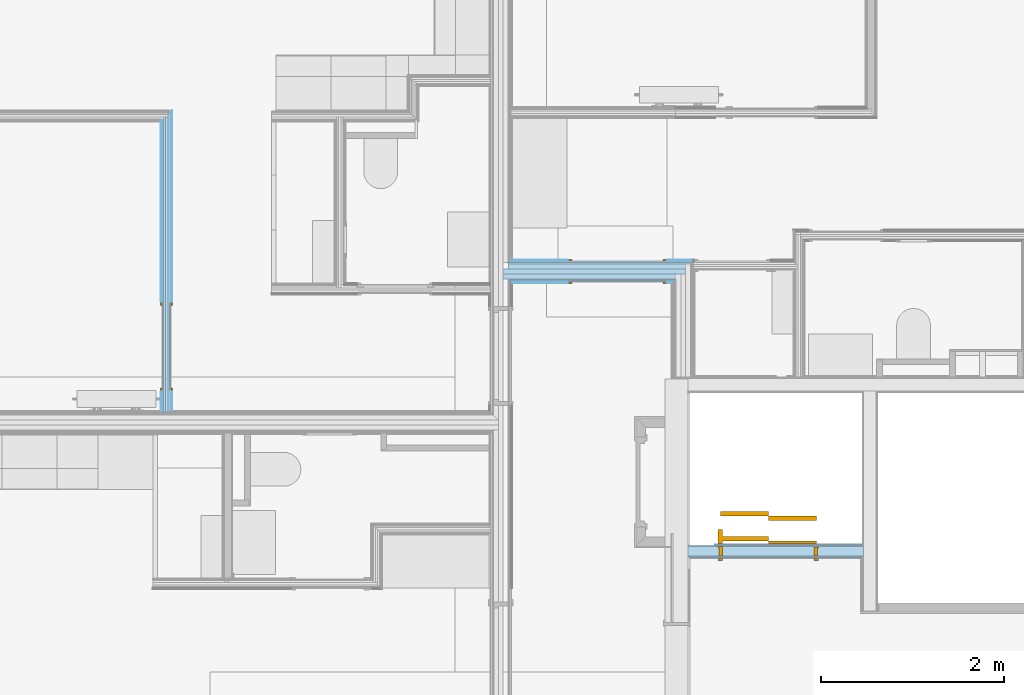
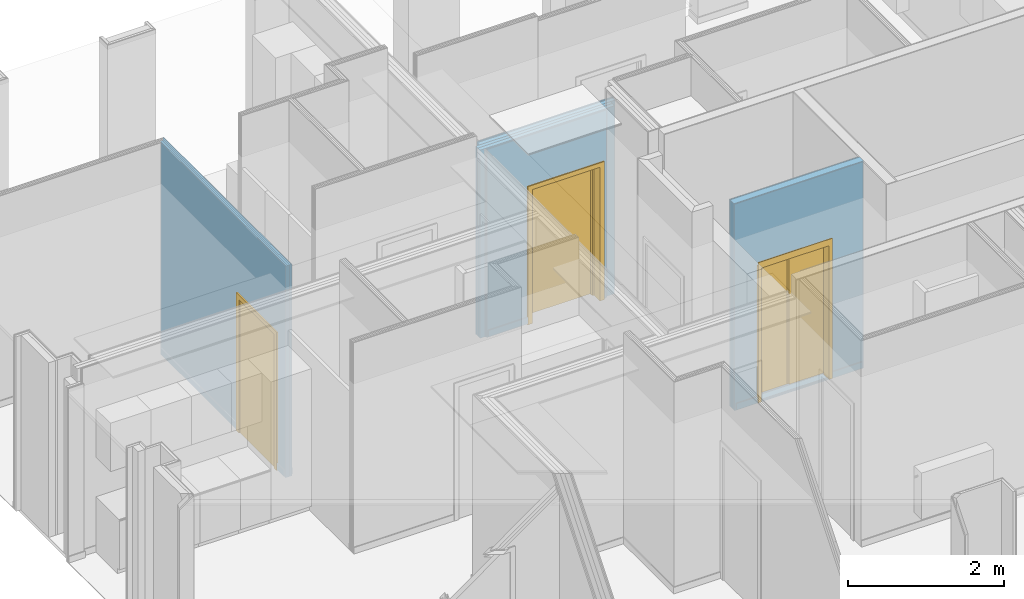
# One storey, part 51 of 65: 3 doors, 4 openings, 3 elements without a shape of their own, plus 21 elements that do not belong to this part.
"""IFC2X3 building model written with IfcOpenShell, lengths in metres."""

import ifcopenshell
import ifcopenshell.guid

model = None  # the IFC model being written
_history = None  # IfcOwnerHistory: only IFC2X3 demands one
_inside = {}  # id of a spatial element -> (the spatial element, [elements in it])
_under = {}  # id of a project, library or spatial element -> (it, [spatial elements below it])
_declared = {}  # id of a project -> (the project, [libraries it declares])
_typed = {}  # id of a type object -> (the type object, [elements of that type])
_made_of = {}  # id of a material, layer set ... -> (it, [elements and type objects made of it])


def new_model(schema):
    """Start an empty IFC model of exactly this schema.

    Asked for "IFC4X3", IfcOpenShell would pick the latest addendum, in which some entities
    have other attributes; the version numbers below select the first issue.
    IFC2X3 requires an IfcOwnerHistory on every rooted entity: one is made here for all.
    """
    global model, _history
    if schema == "IFC4X3":
        model = ifcopenshell.file(schema_version=(4, 3, 0, 0))
    else:
        model = ifcopenshell.file(schema=schema)
    _inside.clear()
    _under.clear()
    _declared.clear()
    _typed.clear()
    _made_of.clear()
    _history = None
    if model.schema == "IFC2X3":
        org = make("IfcOrganization", Name="unknown")
        user = make(
            "IfcPersonAndOrganization",
            ThePerson=make("IfcPerson", FamilyName="unknown"),
            TheOrganization=org,
        )
        app = make(
            "IfcApplication",
            ApplicationDeveloper=org,
            Version="unknown",
            ApplicationFullName="unknown",
            ApplicationIdentifier="unknown",
        )
        _history = make(
            "IfcOwnerHistory",
            OwningUser=user,
            OwningApplication=app,
            ChangeAction="ADDED",
            CreationDate=0,
        )
    return model


def make(cls, **values):
    """One entity of the class cls with the attributes given. An attribute that is None is left unset."""
    return model.create_entity(
        cls, **{name: value for name, value in values.items() if value is not None}
    )


def entity(cls, *values):
    """Any entity or typed value of the class cls, its attributes in the order of the schema. None: left unset."""
    e = model.create_entity(cls)
    for i, value in enumerate(values):
        if value is not None:
            e[i] = value
    return e


def rooted(cls, **values):
    """An entity with a GlobalId (a new one), such as an element, a storey or a relation."""
    return make(cls, GlobalId=ifcopenshell.guid.new(), OwnerHistory=_history, **values)


def si_unit(unit_type, name, prefix=None):
    """IfcSIUnit, for example si_unit("LENGTHUNIT", "METRE", prefix="MILLI")."""
    return make("IfcSIUnit", UnitType=unit_type, Prefix=prefix, Name=name)


def converted_unit(unit_type, name, factor, base, dimensions=None, offset=None):
    """IfcConversionBasedUnit, such as the inch: factor (a typed value) times the base unit."""
    return make(
        "IfcConversionBasedUnit"
        if offset is None
        else "IfcConversionBasedUnitWithOffset",
        ConversionOffset=offset,
        Dimensions=None
        if dimensions is None
        else entity("IfcDimensionalExponents", *dimensions),
        UnitType=unit_type,
        Name=name,
        ConversionFactor=make(
            "IfcMeasureWithUnit", ValueComponent=factor, UnitComponent=base
        ),
    )


def derived_unit(unit_type, elements):
    """IfcDerivedUnit: a product of units, each with its exponent."""
    return make(
        "IfcDerivedUnit",
        Elements=[
            make("IfcDerivedUnitElement", Unit=unit, Exponent=power)
            for unit, power in elements
        ],
        UnitType=unit_type,
    )


def money_unit(currency):
    """IfcMonetaryUnit."""
    return make("IfcMonetaryUnit", Currency=currency)


def assignment(units):
    """IfcUnitAssignment: the units of a project."""
    return None if units is None else make("IfcUnitAssignment", Units=units)


def point(xyz):
    """IfcCartesianPoint."""
    return None if xyz is None else make("IfcCartesianPoint", Coordinates=xyz)


def direction(xyz):
    """IfcDirection."""
    return None if xyz is None else make("IfcDirection", DirectionRatios=xyz)


def frame(location, z_axis=None, x_axis=None):
    """IfcAxis2Placement3D, a coordinate frame: its origin and axes. An axis left out is left unset."""
    return make(
        "IfcAxis2Placement3D",
        Location=point(location),
        Axis=direction(z_axis),
        RefDirection=direction(x_axis),
    )


def frame_2d(location, x_axis=None):
    """IfcAxis2Placement2D, a coordinate frame in the plane: its origin and x axis."""
    return make(
        "IfcAxis2Placement2D", Location=point(location), RefDirection=direction(x_axis)
    )


def origin_with_axes():
    """The frame at (0, 0, 0) with the z axis (0, 0, 1) and the x axis (1, 0, 0) written out."""
    return frame((0.0, 0.0, 0.0), z_axis=(0.0, 0.0, 1.0), x_axis=(1.0, 0.0, 0.0))


def place(relative_to, where):
    """IfcLocalPlacement: puts the frame where relative to a parent placement (None: the world)."""
    return make(
        "IfcLocalPlacement", PlacementRelTo=relative_to, RelativePlacement=where
    )


def context(
    kind, dimensions, precision=None, world=None, true_north=None, identifier=None
):
    """IfcGeometricRepresentationContext, for example the 3D "Model" context."""
    return make(
        "IfcGeometricRepresentationContext",
        ContextIdentifier=identifier,
        ContextType=kind,
        CoordinateSpaceDimension=dimensions,
        Precision=precision,
        WorldCoordinateSystem=world,
        TrueNorth=true_north,
    )


def subcontext(parent, identifier, kind, view, scale=None):
    """IfcGeometricRepresentationSubContext, for example "Body" below "Model"."""
    return make(
        "IfcGeometricRepresentationSubContext",
        ContextIdentifier=identifier,
        ContextType=kind,
        ParentContext=parent,
        TargetScale=scale,
        TargetView=view,
    )


def project(units=None, contexts=None):
    """IfcProject with its units and contexts."""
    return rooted(
        "IfcProject",
        Name="project",
        RepresentationContexts=contexts,
        UnitsInContext=assignment(units),
    )


def spatial(cls, under=None, at=None, **own):
    """A site, building, storey or space (cls), placed at a placement, below another one or the project."""
    s = rooted(cls, ObjectPlacement=at, **own)
    if under is not None:
        _under.setdefault(under.id(), (under, []))[1].append(s)
    return s


def polyline(points):
    """IfcPolyline through the points."""
    return make("IfcPolyline", Points=[point(p) for p in points])


def profile(cls, at=None, kind="AREA", **sizes):
    """A parametric profile (cls). Its sizes go by their IFC names, for example OverallWidth=200.0."""
    return make(cls, ProfileType=kind, Position=at, **sizes)


def rectangle(**sizes):
    """IfcRectangleProfileDef."""
    return profile("IfcRectangleProfileDef", **sizes)


def outline(outer, holes=None, kind="AREA"):
    """IfcArbitraryClosedProfileDef: a profile drawn as a closed curve; with holes, ...WithVoids."""
    if holes is None:
        return make("IfcArbitraryClosedProfileDef", ProfileType=kind, OuterCurve=outer)
    return make(
        "IfcArbitraryProfileDefWithVoids",
        ProfileType=kind,
        OuterCurve=outer,
        InnerCurves=holes,
    )


def extrude(swept, where, along, depth):
    """IfcExtrudedAreaSolid: the profile swept, set in the frame where, extruded along a direction by depth."""
    return make(
        "IfcExtrudedAreaSolid",
        SweptArea=swept,
        Position=where,
        ExtrudedDirection=direction(along),
        Depth=depth,
    )


def faces_of(points, faces, orient=None, outer=None):
    """IfcFace entities. A face is a list of loops; a loop is a list of indices into points, from 0.

    orient and outer hold one flag for each loop. By default every Orientation is true, the
    first loop of a face is its IfcFaceOuterBound and the others are IfcFaceBound.
    """
    made = []
    for i, loops in enumerate(faces):
        bounds = []
        for j, loop in enumerate(loops):
            is_outer = j == 0 if outer is None else outer[i][j]
            bounds.append(
                make(
                    "IfcFaceOuterBound" if is_outer else "IfcFaceBound",
                    Bound=make("IfcPolyLoop", Polygon=[points[k] for k in loop]),
                    Orientation=True if orient is None else orient[i][j],
                )
            )
        made.append(make("IfcFace", Bounds=bounds))
    return made


def faceted_brep(points, faces, orient=None, outer=None, voids=None):
    """IfcFacetedBrep: a solid bounded by flat faces; with voids (closed shells), ...WithVoids."""
    shared = [point(p) for p in points]
    hull = make("IfcClosedShell", CfsFaces=faces_of(shared, faces, orient, outer))
    if voids is None:
        return make("IfcFacetedBrep", Outer=hull)
    return make(
        "IfcFacetedBrepWithVoids",
        Outer=hull,
        Voids=[
            make(cls, CfsFaces=faces_of(shared, fs, o, b)) for cls, fs, o, b in voids
        ],
    )


def shape(context_of_items, identifier, shape_type, items):
    """IfcShapeRepresentation: the items that make up one representation, for example the "Body"."""
    return make(
        "IfcShapeRepresentation",
        ContextOfItems=context_of_items,
        RepresentationIdentifier=identifier,
        RepresentationType=shape_type,
        Items=items,
    )


def material(Name=None, Category=None):
    """IfcMaterial."""
    return make("IfcMaterial", Name=Name, Category=Category)


def made_of(thing, what):
    """Note that an element or type object is made of a material, layer set ...; save() writes the relation."""
    if what is not None:
        _made_of.setdefault(what.id(), (what, []))[1].append(thing)
    return thing


def type_object(cls, material=None, **own):
    """A type object (cls), such as IfcWallType, which elements share."""
    return made_of(rooted(cls, **own), material)


def element(
    cls,
    number,
    at=None,
    inside=None,
    cuts=None,
    type_object=None,
    material=None,
    context=None,
    identifier="Body",
    shape_type=None,
    held_by="IfcProductDefinitionShape",
    body=None,
    shapes=None,
    **own,
):
    """One element of the class cls, such as IfcWall. Its Tag is "e" and its number.

    at: its placement. inside: the storey or other place that contains it. cuts: it is an
    opening in that element (IfcRelVoidsElement). A single representation is given by context,
    identifier, shape_type and body (its items); several are given by shapes. held_by: the class
    of the entity that holds the representations. save() writes the other relations.
    """
    e = rooted(cls, Tag="e%d" % number, ObjectPlacement=at, **own)
    if body is not None:
        shapes = [shape(context, identifier, shape_type, body)]
    if shapes is not None:
        e.Representation = make(held_by, Representations=shapes)
    if inside is not None:
        _inside.setdefault(inside.id(), (inside, []))[1].append(e)
    if cuts is not None:
        rooted(
            "IfcRelVoidsElement", RelatingBuildingElement=cuts, RelatedOpeningElement=e
        )
    if type_object is not None:
        _typed.setdefault(type_object.id(), (type_object, []))[1].append(e)
    return made_of(e, material)


def fill(opening, filler):
    """IfcRelFillsElement: the door or window that sits in an opening."""
    return rooted(
        "IfcRelFillsElement",
        RelatingOpeningElement=opening,
        RelatedBuildingElement=filler,
    )


def aggregate(whole, parts):
    """IfcRelAggregates: a whole, such as a stair, and the parts it consists of."""
    return rooted("IfcRelAggregates", RelatingObject=whole, RelatedObjects=parts)


def save(model, path):
    """Write the relations noted so far, then the file.

    IfcRelAggregates (storeys below a building ...), IfcRelContainedInSpatialStructure (elements
    in a storey), IfcRelDefinesByType, IfcRelAssociatesMaterial and IfcRelDeclares: one each for
    every whole, place, type object, material and project.
    """
    for whole, parts in _under.values():
        aggregate(whole, parts)
    for where, things in _inside.values():
        rooted(
            "IfcRelContainedInSpatialStructure",
            RelatedElements=things,
            RelatingStructure=where,
        )
    for kind, things in _typed.values():
        rooted("IfcRelDefinesByType", RelatedObjects=things, RelatingType=kind)
    for what, things in _made_of.values():
        rooted("IfcRelAssociatesMaterial", RelatedObjects=things, RelatingMaterial=what)
    for by, libraries in _declared.values():
        rooted("IfcRelDeclares", RelatingContext=by, RelatedDefinitions=libraries)
    model.write(path)


model = new_model("IFC2X3")

# Units and contexts
model_context = context("Model", 3, precision=1e-05, world=origin_with_axes(), true_north=direction((0.0, 1.0)))
body_context = subcontext(model_context, "Body", "Model", "MODEL_VIEW", scale=1.0)
ifc_project = project(units=[si_unit("LENGTHUNIT", "METRE"), si_unit("AREAUNIT", "SQUARE_METRE"), si_unit("VOLUMEUNIT", "CUBIC_METRE"), si_unit("ABSORBEDDOSEUNIT", "GRAY"), si_unit("AMOUNTOFSUBSTANCEUNIT", "MOLE"), si_unit("DOSEEQUIVALENTUNIT", "SIEVERT"), si_unit("ELECTRICCAPACITANCEUNIT", "FARAD"), si_unit("ELECTRICCHARGEUNIT", "COULOMB"), si_unit("ELECTRICCONDUCTANCEUNIT", "SIEMENS"), si_unit("ELECTRICCURRENTUNIT", "AMPERE"), si_unit("ELECTRICRESISTANCEUNIT", "OHM"), si_unit("ELECTRICVOLTAGEUNIT", "VOLT"), si_unit("ENERGYUNIT", "JOULE"), si_unit("FORCEUNIT", "NEWTON"), si_unit("FREQUENCYUNIT", "HERTZ"), si_unit("ILLUMINANCEUNIT", "LUX"), si_unit("INDUCTANCEUNIT", "HENRY"), si_unit("LUMINOUSFLUXUNIT", "LUMEN"), si_unit("LUMINOUSINTENSITYUNIT", "CANDELA"), si_unit("MAGNETICFLUXDENSITYUNIT", "TESLA"), si_unit("MAGNETICFLUXUNIT", "WEBER"), si_unit("MASSUNIT", "GRAM"), converted_unit("PLANEANGLEUNIT", "degree", entity("IfcReal", 0.0174532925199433), si_unit("PLANEANGLEUNIT", "RADIAN"), dimensions=[0, 0, 0, 0, 0, 0, 0]), si_unit("POWERUNIT", "WATT"), si_unit("PRESSUREUNIT", "PASCAL"), si_unit("RADIOACTIVITYUNIT", "BECQUEREL"), si_unit("SOLIDANGLEUNIT", "STERADIAN"), si_unit("THERMODYNAMICTEMPERATUREUNIT", "KELVIN"), si_unit("TIMEUNIT", "SECOND"), derived_unit("ACCELERATIONUNIT", [(si_unit("LENGTHUNIT", "METRE"), 1), (si_unit("TIMEUNIT", "SECOND"), -2)]), derived_unit("ANGULARVELOCITYUNIT", [(converted_unit("PLANEANGLEUNIT", "degree", entity("IfcReal", 0.0174532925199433), si_unit("PLANEANGLEUNIT", "RADIAN"), dimensions=[0, 0, 0, 0, 0, 0, 0]), 1), (si_unit("TIMEUNIT", "SECOND"), -1)]), derived_unit("CURVATUREUNIT", [(converted_unit("PLANEANGLEUNIT", "degree", entity("IfcReal", 0.0174532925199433), si_unit("PLANEANGLEUNIT", "RADIAN"), dimensions=[0, 0, 0, 0, 0, 0, 0]), 1), (si_unit("LENGTHUNIT", "METRE"), -1)]), derived_unit("DYNAMICVISCOSITYUNIT", [(si_unit("PRESSUREUNIT", "PASCAL"), 1), (si_unit("TIMEUNIT", "SECOND"), 1)]), derived_unit("HEATFLUXDENSITYUNIT", [(si_unit("POWERUNIT", "WATT"), 1), (si_unit("LENGTHUNIT", "METRE"), -2)]), derived_unit("HEATINGVALUEUNIT", [(si_unit("ENERGYUNIT", "JOULE"), 1), (si_unit("MASSUNIT", "GRAM"), -1)]), derived_unit("INTEGERCOUNTRATEUNIT", [(si_unit("TIMEUNIT", "SECOND"), -1)]), derived_unit("IONCONCENTRATIONUNIT", [(si_unit("MASSUNIT", "GRAM"), 1), (si_unit("VOLUMEUNIT", "CUBIC_METRE"), -1)]), derived_unit("ISOTHERMALMOISTURECAPACITYUNIT", [(si_unit("VOLUMEUNIT", "CUBIC_METRE"), 1), (si_unit("MASSUNIT", "GRAM"), -1)]), derived_unit("KINEMATICVISCOSITYUNIT", [(si_unit("AREAUNIT", "SQUARE_METRE"), 1), (si_unit("TIMEUNIT", "SECOND"), -1)]), derived_unit("LINEARFORCEUNIT", [(si_unit("FORCEUNIT", "NEWTON"), 1), (si_unit("LENGTHUNIT", "METRE"), -1)]), derived_unit("LINEARMOMENTUNIT", [(si_unit("FORCEUNIT", "NEWTON"), 1), (si_unit("LENGTHUNIT", "METRE"), -1)]), derived_unit("LINEARSTIFFNESSUNIT", [(si_unit("FORCEUNIT", "NEWTON"), 1), (si_unit("LENGTHUNIT", "METRE"), -1)]), derived_unit("LINEARVELOCITYUNIT", [(si_unit("LENGTHUNIT", "METRE"), 1), (si_unit("TIMEUNIT", "SECOND"), -1)]), derived_unit("LUMINOUSINTENSITYDISTRIBUTIONUNIT", [(si_unit("LUMINOUSINTENSITYUNIT", "CANDELA"), 1), (si_unit("LUMINOUSFLUXUNIT", "LUMEN"), -1)]), derived_unit("MASSDENSITYUNIT", [(si_unit("MASSUNIT", "GRAM"), 1), (si_unit("VOLUMEUNIT", "CUBIC_METRE"), -1)]), derived_unit("MASSFLOWRATEUNIT", [(si_unit("MASSUNIT", "GRAM"), 1), (si_unit("TIMEUNIT", "SECOND"), -1)]), derived_unit("MASSPERLENGTHUNIT", [(si_unit("MASSUNIT", "GRAM"), 1), (si_unit("LENGTHUNIT", "METRE"), -1)]), derived_unit("MODULUSOFELASTICITYUNIT", [(si_unit("FORCEUNIT", "NEWTON"), 1), (si_unit("AREAUNIT", "SQUARE_METRE"), -1)]), derived_unit("MODULUSOFLINEARSUBGRADEREACTIONUNIT", [(si_unit("FORCEUNIT", "NEWTON"), 1), (si_unit("LENGTHUNIT", "METRE"), -2)]), derived_unit("MODULUSOFROTATIONALSUBGRADEREACTIONUNIT", [(si_unit("FORCEUNIT", "NEWTON"), 1), (si_unit("LENGTHUNIT", "METRE"), 1)]), derived_unit("MODULUSOFSUBGRADEREACTIONUNIT", [(si_unit("FORCEUNIT", "NEWTON"), 1), (si_unit("VOLUMEUNIT", "CUBIC_METRE"), -1)]), derived_unit("MOISTUREDIFFUSIVITYUNIT", [(si_unit("VOLUMEUNIT", "CUBIC_METRE"), 1), (si_unit("TIMEUNIT", "SECOND"), -1)]), derived_unit("MOLECULARWEIGHTUNIT", [(si_unit("MASSUNIT", "GRAM"), 1), (si_unit("AMOUNTOFSUBSTANCEUNIT", "MOLE"), -1)]), derived_unit("PLANARFORCEUNIT", [(si_unit("FORCEUNIT", "NEWTON"), 1), (si_unit("LENGTHUNIT", "METRE"), -2)]), derived_unit("ROTATIONALFREQUENCYUNIT", [(si_unit("TIMEUNIT", "SECOND"), -1)]), derived_unit("ROTATIONALMASSUNIT", [(si_unit("MASSUNIT", "GRAM"), 1), (si_unit("LENGTHUNIT", "METRE"), 2)]), derived_unit("ROTATIONALSTIFFNESSUNIT", [(si_unit("FORCEUNIT", "NEWTON"), 1), (si_unit("LENGTHUNIT", "METRE"), 1), (converted_unit("PLANEANGLEUNIT", "degree", entity("IfcReal", 0.0174532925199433), si_unit("PLANEANGLEUNIT", "RADIAN"), dimensions=[0, 0, 0, 0, 0, 0, 0]), -1)]), derived_unit("SECTIONAREAINTEGRALUNIT", [(si_unit("LENGTHUNIT", "METRE"), 5)]), derived_unit("SECTIONMODULUSUNIT", [(si_unit("LENGTHUNIT", "METRE"), 3)]), derived_unit("SHEARMODULUSUNIT", [(si_unit("FORCEUNIT", "NEWTON"), 1), (si_unit("AREAUNIT", "SQUARE_METRE"), -1)]), derived_unit("SOUNDPOWERUNIT", [(si_unit("ENERGYUNIT", "JOULE"), 1), (si_unit("TIMEUNIT", "SECOND"), -1)]), derived_unit("SPECIFICHEATCAPACITYUNIT", [(si_unit("FORCEUNIT", "NEWTON"), 1), (si_unit("MASSUNIT", "GRAM"), -1), (si_unit("THERMODYNAMICTEMPERATUREUNIT", "KELVIN"), -1)]), derived_unit("TEMPERATUREGRADIENTUNIT", [(si_unit("THERMODYNAMICTEMPERATUREUNIT", "KELVIN"), 1), (si_unit("LENGTHUNIT", "METRE"), -1)]), derived_unit("THERMALADMITTANCEUNIT", [(si_unit("POWERUNIT", "WATT"), 1), (si_unit("AREAUNIT", "SQUARE_METRE"), -1), (si_unit("THERMODYNAMICTEMPERATUREUNIT", "KELVIN"), -1)]), derived_unit("THERMALCONDUCTANCEUNIT", [(si_unit("POWERUNIT", "WATT"), 1), (si_unit("LENGTHUNIT", "METRE"), -1), (si_unit("THERMODYNAMICTEMPERATUREUNIT", "KELVIN"), -1)]), derived_unit("THERMALEXPANSIONCOEFFICIENTUNIT", [(si_unit("THERMODYNAMICTEMPERATUREUNIT", "KELVIN"), -1)]), derived_unit("THERMALRESISTANCEUNIT", [(si_unit("AREAUNIT", "SQUARE_METRE"), 1), (si_unit("POWERUNIT", "WATT"), -1)]), derived_unit("THERMALTRANSMITTANCEUNIT", [(si_unit("POWERUNIT", "WATT"), 1), (si_unit("AREAUNIT", "SQUARE_METRE"), -1), (si_unit("THERMODYNAMICTEMPERATUREUNIT", "KELVIN"), -1)]), derived_unit("TORQUEUNIT", [(si_unit("FORCEUNIT", "NEWTON"), 1), (si_unit("LENGTHUNIT", "METRE"), 1)]), derived_unit("VAPORPERMEABILITYUNIT", [(si_unit("MASSUNIT", "GRAM"), 1), (si_unit("TIMEUNIT", "SECOND"), -1)]), derived_unit("VOLUMETRICFLOWRATEUNIT", [(si_unit("VOLUMEUNIT", "CUBIC_METRE"), 1), (si_unit("TIMEUNIT", "SECOND"), -1)]), derived_unit("WARPINGCONSTANTUNIT", [(si_unit("LENGTHUNIT", "METRE"), 6)]), derived_unit("WARPINGMOMENTUNIT", [(si_unit("FORCEUNIT", "NEWTON"), 1), (si_unit("LENGTHUNIT", "METRE"), 2)]), money_unit("GBP")], contexts=[model_context])

# Site, building, storey, space
site_placement = place(None, origin_with_axes())
site = spatial("IfcSite", under=ifc_project, at=site_placement, Name="Site", CompositionType="ELEMENT")
building_placement = place(site_placement, origin_with_axes())
building = spatial("IfcBuilding", under=site, at=building_placement, Name="Building01", CompositionType="ELEMENT")
storey_placement = place(building_placement, frame((0.0, 0.0, 8.64), z_axis=(0.0, 0.0, 1.0), x_axis=(1.0, 0.0, 0.0)))
storey = spatial("IfcBuildingStorey", under=building, at=storey_placement, Name="2F", CompositionType="ELEMENT", Elevation=8.64)
space_1_placement = place(storey_placement, frame((11.275, 11.668124, 0.017975), z_axis=(0.0, 0.0, 1.0), x_axis=(-1.0, 0.0, 0.0)))
space_1 = spatial("IfcSpace", under=storey, at=space_1_placement, Name="corridor", CompositionType="ELEMENT", InteriorOrExteriorSpace="NOTDEFINED")

# Door
ifc_material_1 = material(Name="A_BSUK_Doors")
door_style_1 = type_object("IfcDoorStyle", Name="A-Doors-SingleFlush", ConstructionType="USERDEFINED", OperationType="SINGLE_SWING_LEFT", ParameterTakesPrecedence=False, Sizeable=False)
wall_2_placement = place(storey_placement, frame((9.197, 9.949704, 0.0), z_axis=(0.0, 0.0, 1.0), x_axis=(-1.0, 0.0, 0.0)))
opening_3_placement = place(wall_2_placement, frame((0.200331, -0.153, 0.0), z_axis=(0.0, 0.0, 1.0), x_axis=(1.0, 0.0, 0.0)))
door_1_placement = place(opening_3_placement, frame((1.042, 0.015, 0.0), z_axis=(0.0, 0.0, 1.0), x_axis=(-1.0, 0.0, 0.0)))
door_1 = element("IfcDoor", 1, at=door_1_placement, inside=space_1, type_object=door_style_1, material=ifc_material_1, Name="2.23", ObjectType="A-Doors-SingleFlush", OverallHeight=2.142, OverallWidth=1.084, context=body_context, shape_type="Brep", body=[
    faceted_brep([(0.0, -0.244, 2.1), (1.0, -0.244, 2.1), (1.0, -0.244, 0.0), (1.069, -0.244, 0.0), (1.069, -0.244, 2.169), (-0.069, -0.244, 2.169), (-0.069, -0.244, 0.0), (0.0, -0.244, 0.0), (1.069, -0.225, 2.169), (1.069, -0.225, 0.0), (-0.069, -0.225, 0.0), (-0.069, -0.225, 2.169), (-0.042, -0.225, 0.0), (-0.042, 0.0, 0.0), (-0.069, 0.0, 0.0), (-0.069, 0.019, 0.0), (0.0, 0.019, 0.0), (0.0, 0.019, 2.1), (1.0, 0.019, 2.1), (-0.069, 0.019, 2.169), (1.069, 0.019, 2.169), (1.069, 0.019, 0.0), (1.0, 0.019, 0.0), (-0.069, 0.0, 2.169), (-0.042, 0.0, 2.142), (-0.042, -0.225, 2.142), (1.042, 0.0, 2.142), (1.042, -0.225, 2.142), (1.042, -0.225, 0.0), (1.042, 0.0, 0.0), (1.069, 0.0, 0.0), (1.069, 0.0, 2.169)], [[[0, 1, 2, 3, 4, 5, 6, 7]], [[8, 4, 3, 9]], [[10, 6, 5, 11]], [[11, 5, 4, 8]], [[7, 6, 10, 12, 13, 14, 15, 16]], [[7, 16, 17, 0]], [[0, 17, 18, 1]], [[17, 16, 15, 19, 20, 21, 22, 18]], [[1, 18, 22, 2]], [[14, 23, 19, 15]], [[24, 13, 12, 25]], [[26, 24, 25, 27]], [[11, 8, 9, 28, 27, 25, 12, 10]], [[27, 28, 29, 26]], [[26, 29, 30, 31, 23, 14, 13, 24]], [[22, 21, 30, 29, 28, 9, 3, 2]], [[30, 21, 20, 31]], [[31, 20, 19, 23]]]),
    faceted_brep([(1.0, -0.09, 0.0), (1.0, -0.04, 0.0), (1.0, -0.04, 2.1), (1.0, -0.09, 2.1), (0.025, -0.09, 2.075), (0.975, -0.09, 2.075), (0.975, -0.09, 0.0), (0.0, -0.09, 2.1), (0.0, -0.09, 0.0), (0.025, -0.09, 0.0), (0.0, -0.04, 0.0), (0.025, -0.04, 0.0), (0.0, -0.04, 2.1), (0.025, -0.04, 2.075), (0.975, -0.04, 0.0), (0.975, -0.04, 2.075)], [[[0, 1, 2, 3]], [[4, 5, 6, 0, 3, 7, 8, 9]], [[9, 8, 10, 11]], [[3, 2, 12, 7]], [[7, 12, 10, 8]], [[13, 11, 10, 12, 2, 1, 14, 15]], [[5, 15, 14, 6]], [[14, 1, 0, 6]], [[9, 11, 13, 4]], [[4, 13, 15, 5]]]),
    faceted_brep([(0.0, -0.04, 2.1), (0.0, 0.0, 2.1), (0.0, 0.0, 0.0), (0.0, -0.04, 0.0), (1.0, -0.04, 0.0), (1.0, 0.0, 0.0), (1.0, 0.0, 2.1), (1.0, -0.04, 2.1)], [[[0, 1, 2, 3]], [[4, 5, 6, 7]], [[3, 2, 5, 4]], [[3, 4, 7, 0]], [[7, 6, 1, 0]], [[1, 6, 5, 2]]]),
])

# Space
space_2_placement = place(storey_placement, frame((7.064669, 14.582, 0.017975), z_axis=(0.0, 0.0, 1.0), x_axis=(-1.0, 0.0, 0.0)))
space_2 = spatial("IfcSpace", under=storey, at=space_2_placement, Name="14", CompositionType="ELEMENT", InteriorOrExteriorSpace="NOTDEFINED")

# Door
door_style_2 = type_object("IfcDoorStyle", Name="A-Doors-SingleFlush", ConstructionType="USERDEFINED", OperationType="SINGLE_SWING_LEFT", ParameterTakesPrecedence=False, Sizeable=False)
wall_3_placement = place(storey_placement, frame((3.534669, 8.43567, 0.0), z_axis=(0.0, 0.0, 1.0), x_axis=(0.0, 1.0, 0.0)))
opening_4_placement = place(wall_3_placement, frame((0.223034, -0.05, 0.0), z_axis=(0.0, 0.0, 1.0), x_axis=(1.0, 0.0, 0.0)))
door_2_placement = place(opening_4_placement, frame((0.042, 0.11, 0.0), z_axis=(0.0, 0.0, 1.0), x_axis=(1.0, 0.0, 0.0)))
door_2 = element("IfcDoor", 2, at=door_2_placement, inside=space_2, type_object=door_style_2, material=ifc_material_1, Name="2.21", ObjectType="A-Doors-SingleFlush", OverallHeight=2.142, OverallWidth=0.984, context=body_context, shape_type="Brep", body=[
    faceted_brep([(0.0, -0.114, 2.1), (0.9, -0.114, 2.1), (0.9, -0.114, 0.0), (0.969, -0.114, 0.0), (0.969, -0.114, 2.169), (-0.069, -0.114, 2.169), (-0.069, -0.114, 0.0), (0.0, -0.114, 0.0), (0.969, -0.095, 2.169), (0.969, -0.095, 0.0), (-0.069, -0.095, 0.0), (-0.069, -0.095, 2.169), (-0.042, -0.095, 0.0), (-0.042, 0.0, 0.0), (-0.069, 0.0, 0.0), (-0.069, 0.019, 0.0), (0.0, 0.019, 0.0), (0.0, 0.019, 2.1), (0.9, 0.019, 2.1), (-0.069, 0.019, 2.169), (0.969, 0.019, 2.169), (0.969, 0.019, 0.0), (0.9, 0.019, 0.0), (-0.069, 0.0, 2.169), (-0.042, 0.0, 2.142), (-0.042, -0.095, 2.142), (0.942, 0.0, 2.142), (0.942, -0.095, 2.142), (0.942, -0.095, 0.0), (0.942, 0.0, 0.0), (0.969, 0.0, 0.0), (0.969, 0.0, 2.169)], [[[0, 1, 2, 3, 4, 5, 6, 7]], [[8, 4, 3, 9]], [[10, 6, 5, 11]], [[11, 5, 4, 8]], [[7, 6, 10, 12, 13, 14, 15, 16]], [[7, 16, 17, 0]], [[0, 17, 18, 1]], [[17, 16, 15, 19, 20, 21, 22, 18]], [[1, 18, 22, 2]], [[14, 23, 19, 15]], [[24, 13, 12, 25]], [[26, 24, 25, 27]], [[11, 8, 9, 28, 27, 25, 12, 10]], [[27, 28, 29, 26]], [[26, 29, 30, 31, 23, 14, 13, 24]], [[22, 21, 30, 29, 28, 9, 3, 2]], [[30, 21, 20, 31]], [[31, 20, 19, 23]]]),
    faceted_brep([(0.9, -0.09, 0.0), (0.9, -0.04, 0.0), (0.9, -0.04, 2.1), (0.9, -0.09, 2.1), (0.025, -0.09, 2.075), (0.875, -0.09, 2.075), (0.875, -0.09, 0.0), (0.0, -0.09, 2.1), (0.0, -0.09, 0.0), (0.025, -0.09, 0.0), (0.0, -0.04, 0.0), (0.025, -0.04, 0.0), (0.0, -0.04, 2.1), (0.025, -0.04, 2.075), (0.875, -0.04, 0.0), (0.875, -0.04, 2.075)], [[[0, 1, 2, 3]], [[4, 5, 6, 0, 3, 7, 8, 9]], [[9, 8, 10, 11]], [[3, 2, 12, 7]], [[7, 12, 10, 8]], [[13, 11, 10, 12, 2, 1, 14, 15]], [[5, 15, 14, 6]], [[14, 1, 0, 6]], [[9, 11, 13, 4]], [[4, 13, 15, 5]]]),
    faceted_brep([(0.0, -0.04, 2.1), (0.0, 0.0, 2.1), (0.0, 0.0, 0.0), (0.0, -0.04, 0.0), (0.9, -0.04, 0.0), (0.9, 0.0, 0.0), (0.9, 0.0, 2.1), (0.9, -0.04, 2.1)], [[[0, 1, 2, 3]], [[4, 5, 6, 7]], [[3, 2, 5, 4]], [[3, 4, 7, 0]], [[7, 6, 1, 0]], [[1, 6, 5, 2]]]),
])

# Space
space_3_placement = place(storey_placement, frame((9.548928, 7.163933, 0.017932), z_axis=(0.0, 0.0, 1.0), x_axis=(1.0, 0.0, 0.0)))
space_3 = spatial("IfcSpace", under=storey, at=space_3_placement, Name="firef. LIFT", CompositionType="ELEMENT", InteriorOrExteriorSpace="NOTDEFINED")

# Door
door_style_3 = type_object("IfcDoorStyle", Name="A-ElevatorDoor-2Speed", ConstructionType="USERDEFINED", OperationType="USERDEFINED", ParameterTakesPrecedence=False, Sizeable=False)
wall_1_placement = place(storey_placement, frame((11.145, 6.965, 0.0), z_axis=(0.0, 0.0, 1.0), x_axis=(-1.0, 0.0, 0.0)))
opening_1_placement = place(wall_1_placement, frame((0.5, -0.03, 0.03), z_axis=(0.0, 0.0, 1.0), x_axis=(1.0, 0.0, 0.0)))
door_3_placement = place(opening_1_placement, frame((1.04, 0.17, 0.0), z_axis=(0.0, 0.0, 1.0), x_axis=(-1.0, 0.0, 0.0)))
door_3 = element("IfcDoor", 3, at=door_3_placement, inside=space_3, type_object=door_style_3, material=ifc_material_1, Name="A-ElevatorDoor-2Speed", ObjectType="A-ElevatorDoor-2Speed", OverallHeight=2.14, OverallWidth=1.08999999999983, context=body_context, shape_type="Brep", body=[
    faceted_brep([(1.05, 0.0, 0.0), (1.05, 0.0, 2.1), (1.05, -0.012, 2.1), (1.05, -0.012, 0.0), (1.0, -0.012, 0.0), (1.0, -0.012, 2.1), (1.0, 0.137, 2.1), (1.0, 0.137, 0.0), (1.05, 0.137, 2.1), (1.05, 0.137, 0.0), (1.05, 0.125, 2.1), (1.05, 0.125, 0.0), (1.04, 0.125, 2.1), (1.04, 0.125, 0.0), (1.04, 0.0, 2.1), (1.04, 0.0, 0.0)], [[[0, 1, 2, 3]], [[4, 5, 6, 7]], [[7, 6, 8, 9]], [[9, 8, 10, 11]], [[11, 10, 12, 13]], [[13, 12, 14, 15]], [[15, 14, 1, 0]], [[3, 4, 7, 9, 11, 13, 15, 0]], [[3, 2, 5, 4]], [[1, 14, 12, 10, 8, 6, 5, 2]]]),
    faceted_brep([(1.05, 0.0, 2.2), (-0.05, 0.0, 2.2), (-0.05, -0.012, 2.2), (1.05, -0.012, 2.2), (1.05, -0.012, 2.1), (-0.05, -0.012, 2.1), (-0.05, 0.137, 2.1), (1.05, 0.137, 2.1), (-0.05, 0.137, 2.2), (1.05, 0.137, 2.2), (-0.05, 0.125, 2.2), (1.05, 0.125, 2.2), (-0.05, 0.125, 2.14), (1.05, 0.125, 2.14), (-0.05, 0.0, 2.14), (1.05, 0.0, 2.14)], [[[0, 1, 2, 3]], [[4, 5, 6, 7]], [[7, 6, 8, 9]], [[9, 8, 10, 11]], [[11, 10, 12, 13]], [[13, 12, 14, 15]], [[15, 14, 1, 0]], [[3, 4, 7, 9, 11, 13, 15, 0]], [[3, 2, 5, 4]], [[1, 14, 12, 10, 8, 6, 5, 2]]]),
    faceted_brep([(-0.05, 0.0, 2.1), (-0.05, 0.0, 0.0), (-0.05, -0.012, 0.0), (-0.05, -0.012, 2.1), (0.0, -0.012, 2.1), (0.0, -0.012, 0.0), (0.0, 0.137, 0.0), (0.0, 0.137, 2.1), (-0.05, 0.137, 0.0), (-0.05, 0.137, 2.1), (-0.05, 0.125, 0.0), (-0.05, 0.125, 2.1), (-0.04, 0.125, 0.0), (-0.04, 0.125, 2.1), (-0.04, 0.0, 0.0), (-0.04, 0.0, 2.1)], [[[0, 1, 2, 3]], [[4, 5, 6, 7]], [[7, 6, 8, 9]], [[9, 8, 10, 11]], [[11, 10, 12, 13]], [[13, 12, 14, 15]], [[15, 14, 1, 0]], [[3, 4, 7, 9, 11, 13, 15, 0]], [[3, 2, 5, 4]], [[1, 14, 12, 10, 8, 6, 5, 2]]]),
    faceted_brep([(-0.025, 0.25, 2.125), (-0.025, 0.2, 2.125), (0.5, 0.2, 2.125), (0.5, 0.25, 2.125), (0.5, 0.25, -0.025), (0.5, 0.2, -0.025), (-0.025, 0.2, -0.025), (-0.025, 0.25, -0.025)], [[[0, 1, 2, 3]], [[4, 5, 6, 7]], [[7, 6, 1, 0]], [[3, 4, 7, 0]], [[3, 2, 5, 4]], [[1, 6, 5, 2]]]),
    faceted_brep([(-0.025, 0.5254, 2.125), (-0.025, 0.4754, 2.125), (0.5, 0.4754, 2.125), (0.5, 0.5254, 2.125), (0.5, 0.5254, -0.0594), (0.5, 0.4754, -0.0594), (-0.025, 0.4754, -0.0594), (-0.025, 0.5254, -0.0594)], [[[0, 1, 2, 3]], [[4, 5, 6, 7]], [[7, 6, 1, 0]], [[3, 4, 7, 0]], [[3, 2, 5, 4]], [[1, 6, 5, 2]]]),
    faceted_brep([(1.025, 0.4254, 2.125), (1.025, 0.4754, 2.125), (0.5, 0.4754, 2.125), (0.5, 0.4254, 2.125), (0.5, 0.4254, -0.025), (0.5, 0.4754, -0.025), (1.025, 0.4754, -0.025), (1.025, 0.4254, -0.025)], [[[0, 1, 2, 3]], [[4, 5, 6, 7]], [[7, 6, 1, 0]], [[3, 4, 7, 0]], [[3, 2, 5, 4]], [[1, 6, 5, 2]]]),
    faceted_brep([(1.025, 0.15, 2.125), (1.025, 0.2, 2.125), (0.5, 0.2, 2.125), (0.5, 0.15, 2.125), (0.5, 0.15, -0.025), (0.5, 0.2, -0.025), (1.025, 0.2, -0.025), (1.025, 0.15, -0.025)], [[[0, 1, 2, 3]], [[4, 5, 6, 7]], [[7, 6, 1, 0]], [[3, 4, 7, 0]], [[3, 2, 5, 4]], [[1, 6, 5, 2]]]),
    faceted_brep([(0.0, 0.137, 2.125), (0.0, 0.137, 0.0), (0.0, 0.3246, 0.0), (0.0, 0.3246, 2.125), (-0.05, 0.3246, 2.125), (-0.05, 0.3246, 0.0), (-0.05, 0.137, 0.0), (-0.05, 0.137, 2.125)], [[[0, 1, 2, 3]], [[4, 5, 6, 7]], [[7, 6, 1, 0]], [[3, 4, 7, 0]], [[3, 2, 5, 4]], [[1, 6, 5, 2]]]),
])

# Wall, opening
wall_type_1 = type_object("IfcWallType", Name="SHE_A-Walls_Type04a_BlockworkWall_130mm", PredefinedType="NOTDEFINED")
wall_1 = element("IfcWall", 4, at=wall_1_placement, inside=storey, type_object=wall_type_1, Name="4A", ObjectType="SHE_A-Walls_Type04a_BlockworkWall_130mm")
opening_1 = element("IfcOpeningElement", 5, at=opening_1_placement, cuts=wall_1, Name="Opening", ObjectType="Opening", context=body_context, shape_type="SweptSolid", body=[
    extrude(rectangle(XDim=2.14, YDim=1.09, at=frame_2d((-0.545, 1.07), x_axis=(0.0, -1.0))), frame((0.0, 0.0, 0.0), z_axis=(0.0, 1.0, 0.0), x_axis=(-1.0, 0.0, 0.0)), (0.0, 0.0, 1.0), 0.16),
])

fill(opening_1, door_3)

# Building element part
ifc_material_2 = material(Name="A_BSUK_Walls_Timber")
placement_1 = place(wall_1_placement, origin_with_axes())
building_element_part_1 = element("IfcBuildingElementPart", 6, at=placement_1, material=ifc_material_2, Name="1", context=body_context, shape_type="SweptSolid", body=[
    extrude(outline(polyline([(0.0, -0.015), (0.015, -0.03), (1.633302, -0.03), (1.633302, -0.015), (0.0, -0.015)])), frame((0.0, 0.0, 0.015), z_axis=(0.0, 0.0, 1.0), x_axis=(1.0, 0.0, 0.0)), (0.0, 0.0, 1.0), 0.1),
])

ifc_material_3 = material(Name="A_BSUK_WallInternal_Finishes_Plasterboard")
building_element_part_2 = element("IfcBuildingElementPart", 7, at=placement_1, material=ifc_material_3, Name="2", context=body_context, shape_type="SweptSolid", body=[
    extrude(outline(polyline([(1.92, 0.0), (0.0, 0.0), (0.015, -0.015), (1.92, -0.015), (1.92, 0.0)])), origin_with_axes(), (0.0, 0.0, 1.0), 3.24),
])

ifc_material_4 = material(Name="A_BSUK_WallsInternal_Block")
building_element_part_3 = element("IfcBuildingElementPart", 8, at=placement_1, material=ifc_material_4, Name="3", context=body_context, shape_type="SweptSolid", body=[
    extrude(rectangle(XDim=1.92, YDim=0.1, at=frame_2d((0.96, 0.05), x_axis=(-1.0, 0.0))), origin_with_axes(), (0.0, 0.0, 1.0), 3.24),
])

ifc_material_5 = material(Name="A_BSUK_WallInternal_Finishes_Plaster")
building_element_part_4 = element("IfcBuildingElementPart", 9, at=placement_1, material=ifc_material_5, Name="4", context=body_context, shape_type="SweptSolid", body=[
    extrude(outline(polyline([(1.92, 0.115), (0.015, 0.115), (0.0, 0.1), (1.92, 0.1), (1.92, 0.115)])), origin_with_axes(), (0.0, 0.0, 1.0), 3.24),
])

building_element_part_5 = element("IfcBuildingElementPart", 10, at=placement_1, material=ifc_material_2, Name="5", context=body_context, shape_type="SweptSolid", body=[
    extrude(outline(polyline([(1.9, 0.13), (0.03, 0.13), (0.015, 0.115), (1.9, 0.115), (1.9, 0.13)])), frame((0.0, 0.0, 0.015), z_axis=(0.0, 0.0, 1.0), x_axis=(1.0, 0.0, 0.0)), (0.0, 0.0, 1.0), 0.1),
])

aggregate(wall_1, [building_element_part_1, building_element_part_2, building_element_part_3, building_element_part_4, building_element_part_5])

# Wall, openings
wall_type_2 = type_object("IfcWallType", Name="SHE_A-Walls_Type01c_Partywall_225mm_twin_tall", PredefinedType="NOTDEFINED")
wall_2 = element("IfcWall", 11, at=wall_2_placement, inside=storey, type_object=wall_type_2, Name="1C", ObjectType="SHE_A-Walls_Type01c_Partywall_225mm_twin_tall")
opening_2_placement = place(wall_2_placement, frame((-0.931871, -0.153, 0.0), z_axis=(0.0, 0.0, 1.0), x_axis=(1.0, 0.0, 0.0)))
element("IfcOpeningElement", 12, at=opening_2_placement, cuts=wall_2, Name="Opening", ObjectType="Recess", context=body_context, shape_type="SweptSolid", body=[
    extrude(rectangle(XDim=2.142, YDim=0.834, at=frame_2d((-0.417, 1.071), x_axis=(0.0, -1.0))), frame((0.0, 0.0, 0.0), z_axis=(0.0, 1.0, 0.0), x_axis=(-1.0, 0.0, 0.0)), (0.0, 0.0, 1.0), 0.015),
])
opening_3 = element("IfcOpeningElement", 13, at=opening_3_placement, cuts=wall_2, Name="Opening", ObjectType="Opening", context=body_context, shape_type="SweptSolid", body=[
    extrude(rectangle(XDim=1.084, YDim=2.142, at=frame_2d((-0.542, 1.071), x_axis=(-1.0, 0.0))), frame((0.0, 0.0, 0.0), z_axis=(0.0, 1.0, 0.0), x_axis=(-1.0, 0.0, 0.0)), (0.0, 0.0, 1.0), 0.255),
])

fill(opening_3, door_1)

# Building element part
placement_2 = place(wall_2_placement, origin_with_axes())
building_element_part_6 = element("IfcBuildingElementPart", 14, at=placement_2, material=ifc_material_2, Name="1", context=body_context, shape_type="SweptSolid", body=[
    extrude(outline(polyline([(1.907331, -0.138), (-0.088, -0.138), (-0.103, -0.153), (1.907331, -0.153), (1.907331, -0.138)])), frame((0.0, 0.0, 0.015), z_axis=(0.0, 0.0, 1.0), x_axis=(1.0, 0.0, 0.0)), (0.0, 0.0, 1.0), 0.1),
])

building_element_part_7 = element("IfcBuildingElementPart", 15, at=placement_2, material=ifc_material_3, Name="2", context=body_context, shape_type="SweptSolid", body=[
    extrude(rectangle(XDim=2.010331, YDim=0.015, at=frame_2d((0.917166, -0.1305), x_axis=(-1.0, 0.0))), origin_with_axes(), (0.0, 0.0, 1.0), 2.95),
])

building_element_part_8 = element("IfcBuildingElementPart", 16, at=placement_2, material=ifc_material_3, Name="3", context=body_context, shape_type="SweptSolid", body=[
    extrude(rectangle(XDim=2.010331, YDim=0.015, at=frame_2d((0.932166, -0.1155), x_axis=(-1.0, 0.0))), origin_with_axes(), (0.0, 0.0, 1.0), 2.95),
])

ifc_material_6 = material(Name="Air Cavity")
building_element_part_9 = element("IfcBuildingElementPart", 17, at=placement_2, material=ifc_material_6, Name="4", context=body_context, shape_type="SweptSolid", body=[
    extrude(rectangle(XDim=2.010331, YDim=0.058, at=frame_2d((0.932166, -0.079), x_axis=(-1.0, 0.0))), origin_with_axes(), (0.0, 0.0, 1.0), 2.95),
])

ifc_material_7 = material(Name="A_BSUK_Insulation")
building_element_part_10 = element("IfcBuildingElementPart", 18, at=placement_2, material=ifc_material_7, Name="5", context=body_context, shape_type="SweptSolid", body=[
    extrude(rectangle(XDim=1.995331, YDim=0.05, at=frame_2d((0.997666, -0.025), x_axis=(-1.0, 0.0))), origin_with_axes(), (0.0, 0.0, 1.0), 2.95),
])

building_element_part_11 = element("IfcBuildingElementPart", 19, at=placement_2, material=ifc_material_6, Name="6", context=body_context, shape_type="SweptSolid", body=[
    extrude(rectangle(XDim=1.995331, YDim=0.057, at=frame_2d((0.997666, 0.0285), x_axis=(-1.0, 0.0))), origin_with_axes(), (0.0, 0.0, 1.0), 2.95),
])

building_element_part_12 = element("IfcBuildingElementPart", 20, at=placement_2, material=ifc_material_3, Name="7", context=body_context, shape_type="SweptSolid", body=[
    extrude(outline(polyline([(1.922331, 0.072), (0.122, 0.072), (0.107, 0.057), (1.922331, 0.057), (1.922331, 0.072)])), origin_with_axes(), (0.0, 0.0, 1.0), 2.95),
])

building_element_part_13 = element("IfcBuildingElementPart", 21, at=placement_2, material=ifc_material_3, Name="8", context=body_context, shape_type="SweptSolid", body=[
    extrude(outline(polyline([(1.907331, 0.087), (0.137, 0.087), (0.122, 0.072), (1.907331, 0.072), (1.907331, 0.087)])), origin_with_axes(), (0.0, 0.0, 1.0), 2.95),
])

building_element_part_14 = element("IfcBuildingElementPart", 22, at=placement_2, material=ifc_material_2, Name="9", context=body_context, shape_type="SweptSolid", body=[
    extrude(outline(polyline([(1.892331, 0.102), (0.152, 0.102), (0.137, 0.087), (1.892331, 0.087), (1.892331, 0.102)])), frame((0.0, 0.0, 0.015), z_axis=(0.0, 0.0, 1.0), x_axis=(1.0, 0.0, 0.0)), (0.0, 0.0, 1.0), 0.1),
])

aggregate(wall_2, [building_element_part_6, building_element_part_7, building_element_part_8, building_element_part_9, building_element_part_10, building_element_part_11, building_element_part_12, building_element_part_13, building_element_part_14])

# Wall, opening
wall_type_3 = type_object("IfcWallType", Name="SHE_A-Walls_Type05a_Partition_95mm_tall", PredefinedType="NOTDEFINED")
wall_3 = element("IfcWall", 23, at=wall_3_placement, inside=storey, type_object=wall_type_3, Name="5A", ObjectType="SHE_A-Walls_Type05a_Partition_95mm_tall")
opening_4 = element("IfcOpeningElement", 24, at=opening_4_placement, cuts=wall_3, Name="Opening", ObjectType="Opening", context=body_context, shape_type="SweptSolid", body=[
    extrude(rectangle(XDim=0.984, YDim=2.142, at=frame_2d((-0.492, 1.071), x_axis=(1.0, 0.0))), frame((0.0, 0.0, 0.0), z_axis=(0.0, 1.0, 0.0), x_axis=(-1.0, 0.0, 0.0)), (0.0, 0.0, 1.0), 0.125),
])

fill(opening_4, door_2)

# Building element part
placement_3 = place(wall_3_placement, origin_with_axes())
building_element_part_15 = element("IfcBuildingElementPart", 25, at=placement_3, material=ifc_material_2, Name="1", context=body_context, shape_type="SweptSolid", body=[
    extrude(outline(polyline([(3.29, -0.035), (0.015, -0.035), (0.015, -0.05), (3.305, -0.05), (3.29, -0.035)])), frame((0.0, 0.0, 0.015), z_axis=(0.0, 0.0, 1.0), x_axis=(1.0, 0.0, 0.0)), (0.0, 0.0, 1.0), 0.1),
])

building_element_part_16 = element("IfcBuildingElementPart", 26, at=placement_3, material=ifc_material_3, Name="2", context=body_context, shape_type="SweptSolid", body=[
    extrude(outline(polyline([(3.278, -0.023), (0.0, -0.023), (0.0, -0.035), (3.29, -0.035), (3.278, -0.023)])), origin_with_axes(), (0.0, 0.0, 1.0), 3.32),
])

building_element_part_17 = element("IfcBuildingElementPart", 27, at=placement_3, material=ifc_material_6, Name="3", context=body_context, shape_type="SweptSolid", body=[
    extrude(outline(polyline([(3.255, 0.0), (0.0, 0.0), (0.0, -0.023), (3.278, -0.023), (3.255, 0.0)])), origin_with_axes(), (0.0, 0.0, 1.0), 3.32),
])

building_element_part_18 = element("IfcBuildingElementPart", 28, at=placement_3, material=ifc_material_7, Name="4", context=body_context, shape_type="SweptSolid", body=[
    extrude(rectangle(XDim=3.23, YDim=0.025, at=frame_2d((1.615, 0.0125), x_axis=(-1.0, 0.0))), origin_with_axes(), (0.0, 0.0, 1.0), 3.32),
])

building_element_part_19 = element("IfcBuildingElementPart", 29, at=placement_3, material=ifc_material_6, Name="5", context=body_context, shape_type="SweptSolid", body=[
    extrude(rectangle(XDim=3.23, YDim=0.023, at=frame_2d((1.615, 0.0365), x_axis=(-1.0, 0.0))), origin_with_axes(), (0.0, 0.0, 1.0), 3.32),
])

building_element_part_20 = element("IfcBuildingElementPart", 30, at=placement_3, material=ifc_material_3, Name="6", context=body_context, shape_type="SweptSolid", body=[
    extrude(outline(polyline([(3.195, 0.06), (0.0, 0.06), (0.0, 0.048), (3.207, 0.048), (3.195, 0.06)])), origin_with_axes(), (0.0, 0.0, 1.0), 3.32),
])

building_element_part_21 = element("IfcBuildingElementPart", 31, at=placement_3, material=ifc_material_2, Name="7", context=body_context, shape_type="SweptSolid", body=[
    extrude(outline(polyline([(3.18, 0.075), (0.015, 0.075), (0.015, 0.06), (3.195, 0.06), (3.18, 0.075)])), frame((0.0, 0.0, 0.015), z_axis=(0.0, 0.0, 1.0), x_axis=(1.0, 0.0, 0.0)), (0.0, 0.0, 1.0), 0.1),
])

aggregate(wall_3, [building_element_part_15, building_element_part_16, building_element_part_17, building_element_part_18, building_element_part_19, building_element_part_20, building_element_part_21])

save(model, "model.ifc")
